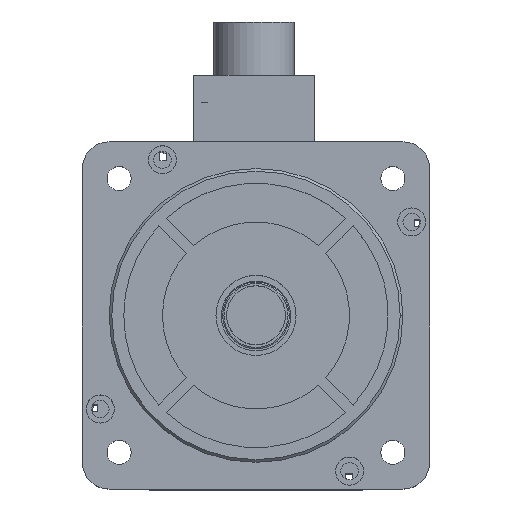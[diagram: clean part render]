
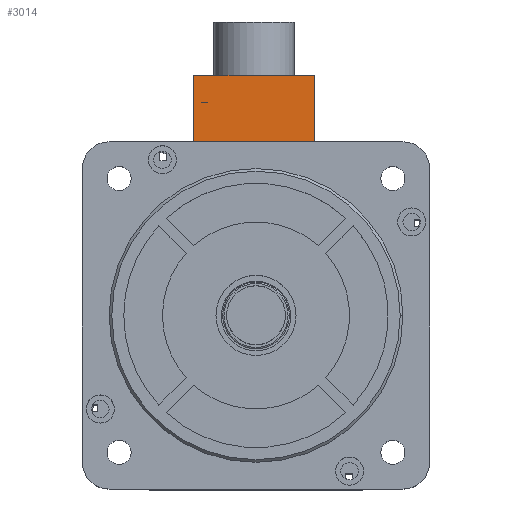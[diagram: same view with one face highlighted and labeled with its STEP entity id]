
A CAD part, top view. The second image highlights one B-rep face of the part: STEP entity #3014.
In plain terms, the highlighted planar face has unit normal (0, 0, 1) as drawn and (0, -1, 0) by its records, which use the part's own axes.
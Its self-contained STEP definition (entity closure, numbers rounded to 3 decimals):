
#377 = EDGE_LOOP ( 'NONE', ( #14423, #22070, #4034, #5545 ) ) ;
#506 = EDGE_CURVE ( 'NONE', #26182, #15292, #17333, .T. ) ;
#598 = DIRECTION ( 'NONE',  ( 1., 0., 0. ) ) ;
#1930 = CARTESIAN_POINT ( 'NONE',  ( 0., 0., -25. ) ) ;
#2496 = LINE ( 'NONE', #25980, #6614 ) ;
#2903 = EDGE_CURVE ( 'NONE', #26572, #26182, #16899, .T. ) ;
#3014 = ADVANCED_FACE ( 'NONE', ( #15910 ), #18819, .T. ) ;
#4034 = ORIENTED_EDGE ( 'NONE', *, *, #24735, .T. ) ;
#4282 = CARTESIAN_POINT ( 'NONE',  ( 45., 0., -25. ) ) ;
#5545 = ORIENTED_EDGE ( 'NONE', *, *, #21243, .T. ) ;
#6614 = VECTOR ( 'NONE', #11580, 1000. ) ;
#6658 = CARTESIAN_POINT ( 'NONE',  ( 45., 0., 0. ) ) ;
#6814 = CARTESIAN_POINT ( 'NONE',  ( 45., 0., -25. ) ) ;
#8610 = VECTOR ( 'NONE', #598, 1000. ) ;
#8632 = CARTESIAN_POINT ( 'NONE',  ( 0., 0., -25. ) ) ;
#8901 = DIRECTION ( 'NONE',  ( 0., 0., -1. ) ) ;
#11580 = DIRECTION ( 'NONE',  ( 1., 0., 0. ) ) ;
#13271 = VECTOR ( 'NONE', #16283, 1000. ) ;
#13351 = VECTOR ( 'NONE', #18375, 1000. ) ;
#14423 = ORIENTED_EDGE ( 'NONE', *, *, #506, .F. ) ;
#15292 = VERTEX_POINT ( 'NONE', #6658 ) ;
#15415 = VERTEX_POINT ( 'NONE', #6814 ) ;
#15910 = FACE_OUTER_BOUND ( 'NONE', #377, .T. ) ;
#16283 = DIRECTION ( 'NONE',  ( 0., 0., 1. ) ) ;
#16501 = LINE ( 'NONE', #4282, #13271 ) ;
#16899 = LINE ( 'NONE', #1930, #13351 ) ;
#17333 = LINE ( 'NONE', #25171, #8610 ) ;
#17954 = AXIS2_PLACEMENT_3D ( 'NONE', #8632, #20983, #8901 ) ;
#18375 = DIRECTION ( 'NONE',  ( 0., 0., 1. ) ) ;
#18819 = PLANE ( 'NONE',  #17954 ) ;
#20690 = CARTESIAN_POINT ( 'NONE',  ( 0., 0., 0. ) ) ;
#20983 = DIRECTION ( 'NONE',  ( 0., -1., 0. ) ) ;
#21243 = EDGE_CURVE ( 'NONE', #15415, #15292, #16501, .T. ) ;
#21834 = CARTESIAN_POINT ( 'NONE',  ( 0., 0., -25. ) ) ;
#22070 = ORIENTED_EDGE ( 'NONE', *, *, #2903, .F. ) ;
#24735 = EDGE_CURVE ( 'NONE', #26572, #15415, #2496, .T. ) ;
#25171 = CARTESIAN_POINT ( 'NONE',  ( 0., 0., 0. ) ) ;
#25980 = CARTESIAN_POINT ( 'NONE',  ( 0., 0., -25. ) ) ;
#26182 = VERTEX_POINT ( 'NONE', #20690 ) ;
#26572 = VERTEX_POINT ( 'NONE', #21834 ) ;
